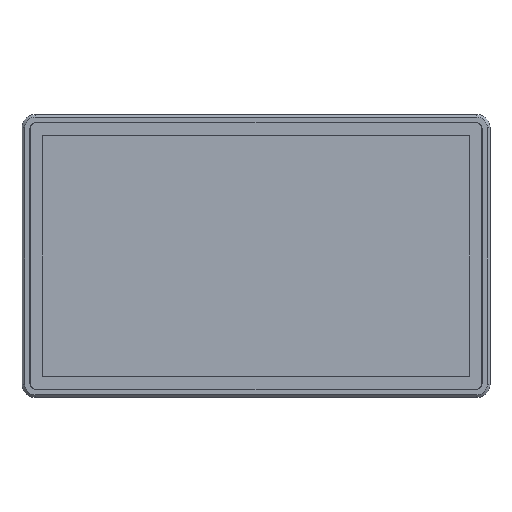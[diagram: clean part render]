
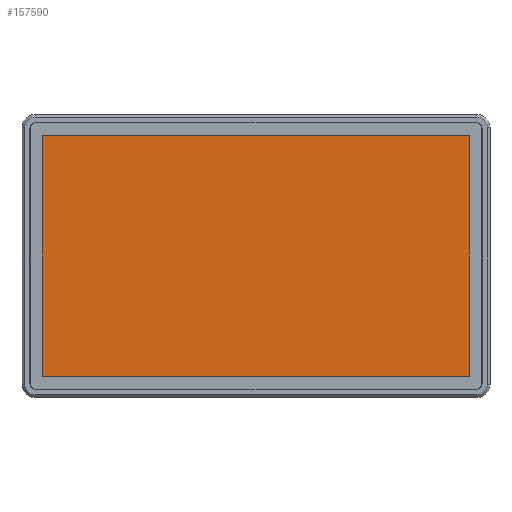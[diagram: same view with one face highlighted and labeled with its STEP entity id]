
A CAD part, top view. The second image highlights one B-rep face of the part: STEP entity #157590.
In plain terms, the highlighted planar face has unit normal (0, 0, 1).
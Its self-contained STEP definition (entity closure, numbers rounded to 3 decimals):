
#2003=PLANE('',#166807);
#12288=LINE('',#225005,#28469);
#12289=LINE('',#225007,#28470);
#12290=LINE('',#225009,#28471);
#12291=LINE('',#225010,#28472);
#28469=VECTOR('',#181385,10.);
#28470=VECTOR('',#181386,10.);
#28471=VECTOR('',#181387,10.);
#28472=VECTOR('',#181388,10.);
#45639=FACE_OUTER_BOUND('',#54170,.T.);
#54170=EDGE_LOOP('',(#107783,#107784,#107785,#107786));
#67999=VERTEX_POINT('',#225003);
#68000=VERTEX_POINT('',#225004);
#68001=VERTEX_POINT('',#225006);
#68002=VERTEX_POINT('',#225008);
#83558=EDGE_CURVE('',#67999,#68000,#12288,.T.);
#83559=EDGE_CURVE('',#67999,#68001,#12289,.T.);
#83560=EDGE_CURVE('',#68001,#68002,#12290,.T.);
#83561=EDGE_CURVE('',#68000,#68002,#12291,.T.);
#107783=ORIENTED_EDGE('',*,*,#83561,.T.);
#107784=ORIENTED_EDGE('',*,*,#83560,.F.);
#107785=ORIENTED_EDGE('',*,*,#83559,.F.);
#107786=ORIENTED_EDGE('',*,*,#83558,.T.);
#157590=ADVANCED_FACE('',(#45639),#2003,.T.);
#166807=AXIS2_PLACEMENT_3D('',#225025,#181406,#181407);
#181385=DIRECTION('',(1.,0.,0.));
#181386=DIRECTION('',(0.,1.,0.));
#181387=DIRECTION('',(1.,0.,0.));
#181388=DIRECTION('',(0.,1.,0.));
#181406=DIRECTION('center_axis',(0.,0.,
1.));
#181407=DIRECTION('ref_axis',(-1.,0.,0.));
#225003=CARTESIAN_POINT('',(-470.6,-264.74,5.1));
#225004=CARTESIAN_POINT('',(470.6,-264.74,5.1));
#225005=CARTESIAN_POINT('',(235.3,-264.74,5.1));
#225006=CARTESIAN_POINT('',(-470.6,264.71,5.1));
#225007=CARTESIAN_POINT('',(-470.6,-264.74,5.1));
#225008=CARTESIAN_POINT('',(470.6,264.71,5.1));
#225009=CARTESIAN_POINT('',(-470.6,264.71,5.1));
#225010=CARTESIAN_POINT('',(470.6,132.355,5.1));
#225025=CARTESIAN_POINT('Origin',(0.,0.,
5.1));
